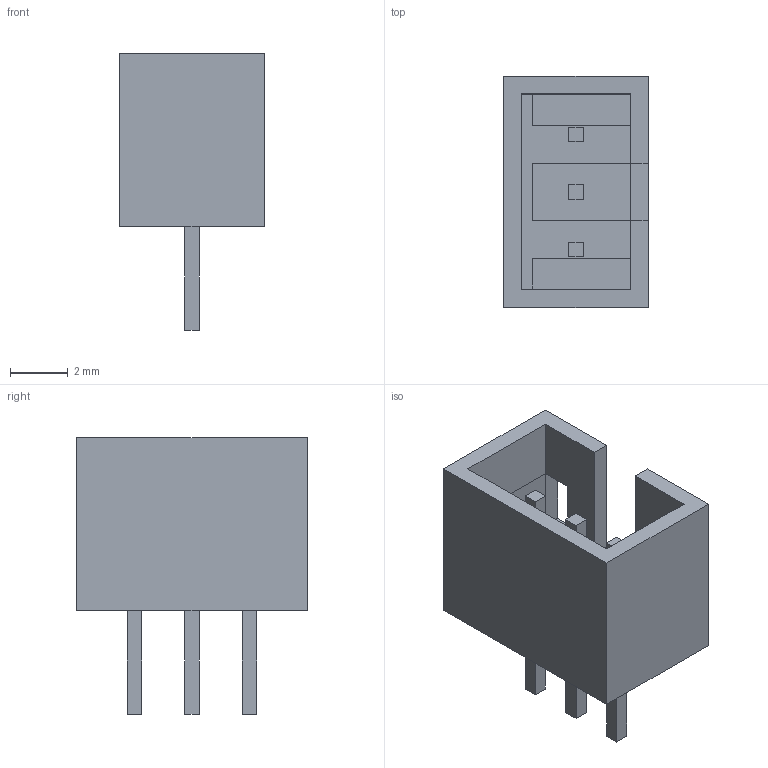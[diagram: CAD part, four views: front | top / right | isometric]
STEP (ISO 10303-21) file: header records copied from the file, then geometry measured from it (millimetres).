
FILE_DESCRIPTION(('FreeCAD Model'),'2;1');
FILE_NAME('Open CASCADE Shape Model','2021-06-28T19:27:22',('Author'),( ''),'Open CASCADE STEP processor 7.5','FreeCAD','Unknown');
FILE_SCHEMA(('AUTOMOTIVE_DESIGN { 1 0 10303 214 1 1 1 1 }'));
Length unit declared in the file: millimetre
Products named in the file (1): Group001
Bounding box: 5 x 8 x 9.6 mm (x, y, z)
Volume: 125.7 mm3; surface area: 352.4 mm2
Topology: 1 solids, 1 shells, 58 faces, 146 edges, 94 vertices
Faces by surface type: plane 58
Entity records: 3888 total; most frequent: CARTESIAN_POINT 687, DIRECTION 460, LINE 342, VECTOR 342, ORIENTED_EDGE 292, PCURVE 292, DEFINITIONAL_REPRESENTATION 292, EDGE_CURVE 146
